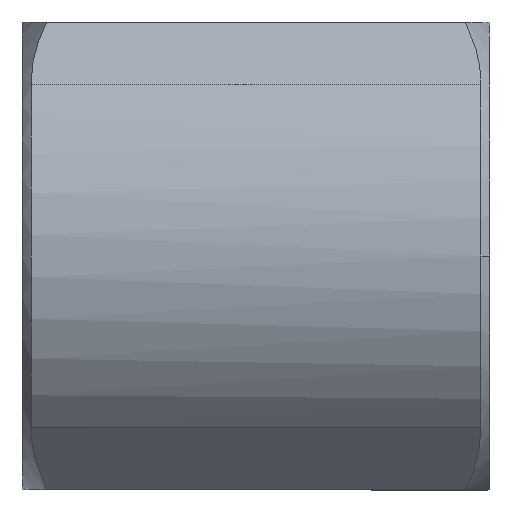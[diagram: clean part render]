
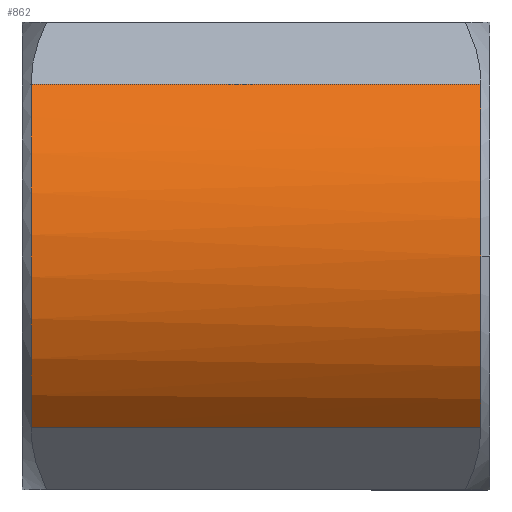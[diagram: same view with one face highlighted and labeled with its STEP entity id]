
A CAD part, left-side view. The second image highlights one B-rep face of the part: STEP entity #862.
In plain terms, the highlighted cylindrical face has radius 13.5 mm (diameter 27 mm), a partial arc.
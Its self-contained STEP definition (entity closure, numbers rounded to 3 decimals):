
#5 = CARTESIAN_POINT ( 'NONE',  ( -9.546, 0.5, -9.546 ) ) ;
#235 = CARTESIAN_POINT ( 'NONE',  ( -9.546, 25.5, 9.546 ) ) ;
#476 = EDGE_CURVE ( 'Defeature completata3_68+Defeature completata3_64+Defeature completata3_65+Defeature completata3_67', #4351, #3289, #5057, .T. ) ;
#482 = VERTEX_POINT ( 'NONE', #4807 ) ;
#520 = CARTESIAN_POINT ( 'NONE',  ( 0., 0.5, 0. ) ) ;
#724 = CARTESIAN_POINT ( 'NONE',  ( 0., 26., 0. ) ) ;
#862 = ADVANCED_FACE ( 'Defeature completata3_64', ( #4729 ), #1516, .T. ) ;
#876 = VECTOR ( 'NONE', #1672, 1000. ) ;
#934 = DIRECTION ( 'NONE',  ( -1., 0., 0. ) ) ;
#1136 = EDGE_CURVE ( 'Defeature completata3_67+Defeature completata3_64+Defeature completata3_68+Defeature completata3_66', #3289, #482, #2986, .T. ) ;
#1335 = LINE ( 'NONE', #1923, #2399 ) ;
#1506 = AXIS2_PLACEMENT_3D ( 'NONE', #520, #3317, #934 ) ;
#1516 = CYLINDRICAL_SURFACE ( 'NONE', #4491, 13.5 ) ;
#1522 = DIRECTION ( 'NONE',  ( 0., -1., 0. ) ) ;
#1556 = CIRCLE ( 'NONE', #5182, 13.5 ) ;
#1595 = CARTESIAN_POINT ( 'NONE',  ( -9.546, 26., 9.546 ) ) ;
#1672 = DIRECTION ( 'NONE',  ( 0., -1., 0. ) ) ;
#1910 = CARTESIAN_POINT ( 'NONE',  ( -13.5, 0.5, 0. ) ) ;
#1923 = CARTESIAN_POINT ( 'NONE',  ( -9.546, 26., -9.546 ) ) ;
#2272 = CARTESIAN_POINT ( 'NONE',  ( 0., 0.5, 0. ) ) ;
#2291 = EDGE_CURVE ( 'Defeature completata3_66+Defeature completata3_64+Defeature completata3_67+Defeature completata3_65', #2647, #4138, #4458, .T. ) ;
#2344 = ORIENTED_EDGE ( 'NONE', *, *, #2291, .F. ) ;
#2371 = CARTESIAN_POINT ( 'NONE',  ( 0., 25.5, 0. ) ) ;
#2399 = VECTOR ( 'NONE', #4359, 1000. ) ;
#2403 = EDGE_LOOP ( 'NONE', ( #3840, #5086, #5227, #2960, #2344 ) ) ;
#2563 = CARTESIAN_POINT ( 'NONE',  ( -9.546, 25.5, -9.546 ) ) ;
#2647 = VERTEX_POINT ( 'NONE', #1910 ) ;
#2666 = DIRECTION ( 'NONE',  ( -1., 0., 0. ) ) ;
#2763 = DIRECTION ( 'NONE',  ( 1., 0., 0. ) ) ;
#2960 = ORIENTED_EDGE ( 'NONE', *, *, #4533, .T. ) ;
#2986 = LINE ( 'NONE', #1595, #876 ) ;
#3289 = VERTEX_POINT ( 'NONE', #235 ) ;
#3317 = DIRECTION ( 'NONE',  ( 0., -1., 0. ) ) ;
#3358 = EDGE_CURVE ( 'Defeature completata3_66+Defeature completata3_64+Defeature completata3_67+Defeature completata3_65', #482, #2647, #1556, .T. ) ;
#3840 = ORIENTED_EDGE ( 'NONE', *, *, #3358, .F. ) ;
#4023 = AXIS2_PLACEMENT_3D ( 'NONE', #2371, #5223, #2763 ) ;
#4138 = VERTEX_POINT ( 'NONE', #5 ) ;
#4351 = VERTEX_POINT ( 'NONE', #2563 ) ;
#4359 = DIRECTION ( 'NONE',  ( 0., -1., 0. ) ) ;
#4458 = CIRCLE ( 'NONE', #1506, 13.5 ) ;
#4491 = AXIS2_PLACEMENT_3D ( 'NONE', #724, #1522, #4676 ) ;
#4533 = EDGE_CURVE ( 'Defeature completata3_64+Defeature completata3_65+Defeature completata3_68+Defeature completata3_66', #4351, #4138, #1335, .T. ) ;
#4676 = DIRECTION ( 'NONE',  ( 0., 0., -1. ) ) ;
#4729 = FACE_OUTER_BOUND ( 'NONE', #2403, .T. ) ;
#4807 = CARTESIAN_POINT ( 'NONE',  ( -9.546, 0.5, 9.546 ) ) ;
#5057 = CIRCLE ( 'NONE', #4023, 13.5 ) ;
#5086 = ORIENTED_EDGE ( 'NONE', *, *, #1136, .F. ) ;
#5116 = DIRECTION ( 'NONE',  ( 0., -1., 0. ) ) ;
#5182 = AXIS2_PLACEMENT_3D ( 'NONE', #2272, #5116, #2666 ) ;
#5223 = DIRECTION ( 'NONE',  ( 0., 1., 0. ) ) ;
#5227 = ORIENTED_EDGE ( 'NONE', *, *, #476, .F. ) ;
